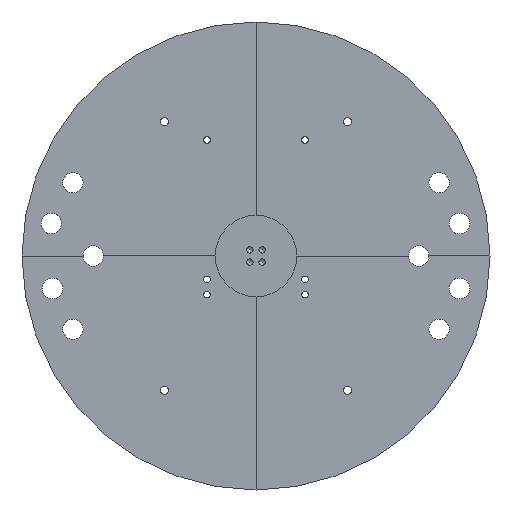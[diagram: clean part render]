
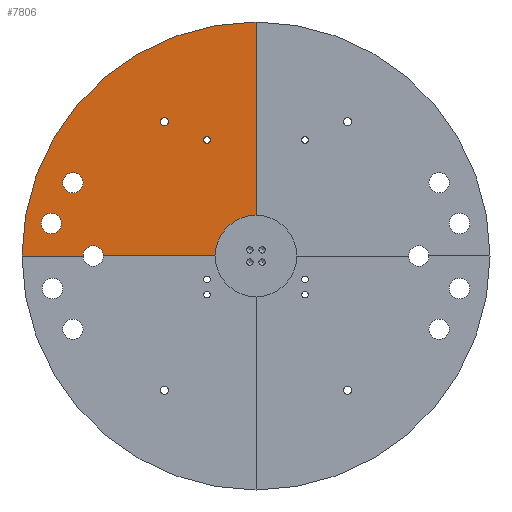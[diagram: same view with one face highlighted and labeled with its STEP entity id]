
A CAD part, left-side view. The second image highlights one B-rep face of the part: STEP entity #7806.
In plain terms, the highlighted planar face has unit normal (-1, 0, 0).
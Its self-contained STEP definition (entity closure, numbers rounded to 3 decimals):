
#198=FACE_BOUND('',#1326,.T.);
#199=FACE_BOUND('',#1327,.T.);
#200=FACE_BOUND('',#1328,.T.);
#201=FACE_BOUND('',#1329,.T.);
#318=PLANE('',#8509);
#807=FACE_OUTER_BOUND('',#1325,.T.);
#1325=EDGE_LOOP('',(#6193,#6194,#6195,#6196,#6197,#6198));
#1326=EDGE_LOOP('',(#6199));
#1327=EDGE_LOOP('',(#6200));
#1328=EDGE_LOOP('',(#6201));
#1329=EDGE_LOOP('',(#6202));
#1873=LINE('',#12638,#2475);
#1879=LINE('',#12666,#2481);
#1883=LINE('',#12684,#2485);
#2475=VECTOR('',#10081,10.);
#2481=VECTOR('',#10111,10.);
#2485=VECTOR('',#10131,10.);
#3079=CIRCLE('',#8487,1.586);
#3081=CIRCLE('',#8490,2.014);
#3091=CIRCLE('',#8506,5.);
#3092=CIRCLE('',#8508,7.5);
#3093=CIRCLE('',#8510,115.);
#3094=CIRCLE('',#8511,5.);
#3095=CIRCLE('',#8512,5.);
#3684=VERTEX_POINT('',#12635);
#3685=VERTEX_POINT('',#12637);
#3687=VERTEX_POINT('',#12643);
#3689=VERTEX_POINT('',#12649);
#3694=VERTEX_POINT('',#12663);
#3695=VERTEX_POINT('',#12665);
#3700=VERTEX_POINT('',#12681);
#3701=VERTEX_POINT('',#12683);
#3702=VERTEX_POINT('',#12692);
#3703=VERTEX_POINT('',#12694);
#4565=EDGE_CURVE('',#3685,#3684,#1873,.T.);
#4569=EDGE_CURVE('',#3687,#3687,#3079,.T.);
#4572=EDGE_CURVE('',#3689,#3689,#3081,.T.);
#4579=EDGE_CURVE('',#3695,#3694,#1879,.T.);
#4588=EDGE_CURVE('',#3701,#3700,#1883,.T.);
#4590=EDGE_CURVE('',#3694,#3701,#3091,.T.);
#4591=EDGE_CURVE('',#3700,#3685,#3092,.T.);
#4592=EDGE_CURVE('',#3684,#3695,#3093,.T.);
#4593=EDGE_CURVE('',#3702,#3702,#3094,.T.);
#4594=EDGE_CURVE('',#3703,#3703,#3095,.T.);
#6193=ORIENTED_EDGE('',*,*,#4590,.T.);
#6194=ORIENTED_EDGE('',*,*,#4588,.T.);
#6195=ORIENTED_EDGE('',*,*,#4591,.T.);
#6196=ORIENTED_EDGE('',*,*,#4565,.T.);
#6197=ORIENTED_EDGE('',*,*,#4592,.T.);
#6198=ORIENTED_EDGE('',*,*,#4579,.T.);
#6199=ORIENTED_EDGE('',*,*,#4569,.T.);
#6200=ORIENTED_EDGE('',*,*,#4572,.T.);
#6201=ORIENTED_EDGE('',*,*,#4593,.T.);
#6202=ORIENTED_EDGE('',*,*,#4594,.T.);
#7806=ADVANCED_FACE('',(#807,#198,#199,#200,#201),#318,.T.);
#8487=AXIS2_PLACEMENT_3D('',#12645,#10088,#10089);
#8490=AXIS2_PLACEMENT_3D('',#12651,#10095,#10096);
#8506=AXIS2_PLACEMENT_3D('',#12687,#10135,#10136);
#8508=AXIS2_PLACEMENT_3D('',#12689,#10139,#10140);
#8509=AXIS2_PLACEMENT_3D('',#12690,#10141,#10142);
#8510=AXIS2_PLACEMENT_3D('',#12691,#10143,#10144);
#8511=AXIS2_PLACEMENT_3D('',#12693,#10145,#10146);
#8512=AXIS2_PLACEMENT_3D('',#12695,#10147,#10148);
#10081=DIRECTION('',(0.,0.,1.));
#10088=DIRECTION('center_axis',(1.,0.,0.));
#10089=DIRECTION('ref_axis',(0.,1.,0.));
#10095=DIRECTION('center_axis',(1.,0.,0.));
#10096=DIRECTION('ref_axis',(0.,1.,0.));
#10111=DIRECTION('',(0.,-1.,0.));
#10131=DIRECTION('',(0.,-1.,0.));
#10135=DIRECTION('center_axis',(1.,0.,0.));
#10136=DIRECTION('ref_axis',(0.,1.,0.));
#10139=DIRECTION('center_axis',(1.,0.,0.));
#10140=DIRECTION('ref_axis',(0.,-1.,0.));
#10141=DIRECTION('center_axis',(-1.,0.,0.));
#10142=DIRECTION('ref_axis',(0.,-1.,0.));
#10143=DIRECTION('center_axis',(-1.,0.,0.));
#10144=DIRECTION('ref_axis',(0.,-1.,0.));
#10145=DIRECTION('center_axis',(1.,0.,0.));
#10146=DIRECTION('ref_axis',(0.,1.,0.));
#10147=DIRECTION('center_axis',(1.,0.,0.));
#10148=DIRECTION('ref_axis',(0.,1.,0.));
#12635=CARTESIAN_POINT('',(-20.,-30.,191.));
#12637=CARTESIAN_POINT('',(-20.,-30.,83.5));
#12638=CARTESIAN_POINT('',(-20.,-30.,76.));
#12643=CARTESIAN_POINT('',(-20.,-7.511,133.));
#12645=CARTESIAN_POINT('Origin',(-20.,-5.925,133.));
#12649=CARTESIAN_POINT('',(-20.,12.986,142.));
#12651=CARTESIAN_POINT('Origin',(-20.,15.,142.));
#12663=CARTESIAN_POINT('',(-20.,55.,76.));
#12665=CARTESIAN_POINT('',(-20.,85.,76.));
#12666=CARTESIAN_POINT('',(-20.,-30.,76.));
#12681=CARTESIAN_POINT('',(-20.,-22.5,76.));
#12683=CARTESIAN_POINT('',(-20.,45.,76.));
#12684=CARTESIAN_POINT('',(-20.,-30.,76.));
#12687=CARTESIAN_POINT('Origin',(-20.,50.,76.));
#12689=CARTESIAN_POINT('Origin',(-20.,-30.,76.));
#12690=CARTESIAN_POINT('Origin',(-20.,-30.,76.));
#12691=CARTESIAN_POINT('Origin',(-20.,-30.,76.));
#12692=CARTESIAN_POINT('',(-20.,55.,112.));
#12693=CARTESIAN_POINT('Origin',(-20.,60.,112.));
#12694=CARTESIAN_POINT('',(-20.,65.644,92.));
#12695=CARTESIAN_POINT('Origin',(-20.,70.644,92.));
